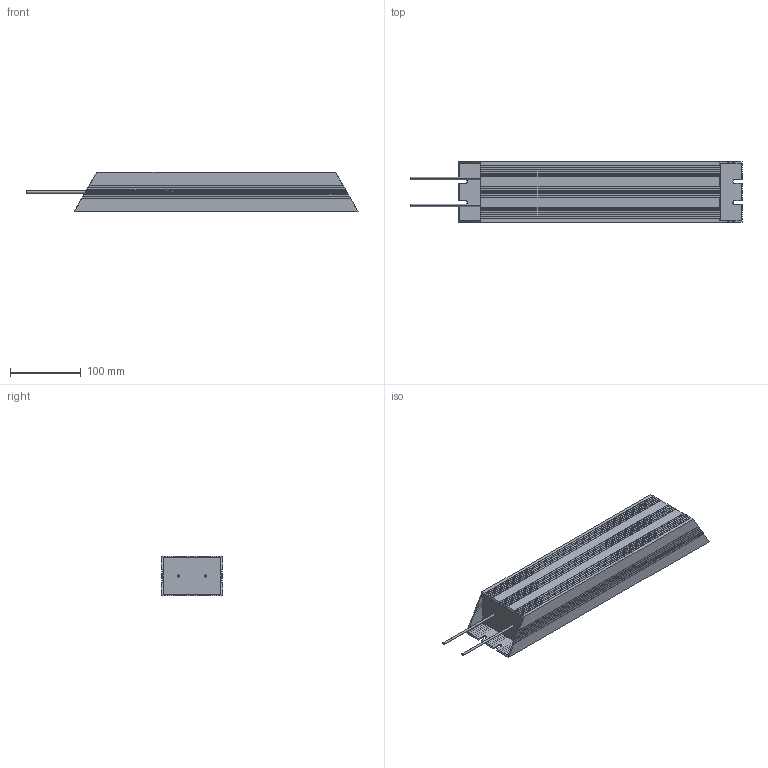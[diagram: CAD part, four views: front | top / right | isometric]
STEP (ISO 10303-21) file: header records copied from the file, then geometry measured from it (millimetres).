
FILE_DESCRIPTION (( 'STEP AP203' ), '1' );
FILE_NAME ('Ðåçèñòîð òîðìîçíîé _ IBRA-40-2500-IP54.STEP', '2025-07-04T13:01:59', ( '' ), ( '' ), 'SwSTEP 2.0', 'SolidWorks 2021', '' );
FILE_SCHEMA (( 'CONFIG_CONTROL_DESIGN' ));
Length unit declared in the file: millimetre
Products named in the file (1): Ðåçèñòîð òîðìîçíîé _ IBRA-40-2500-IP54
Bounding box: 468.15 x 85 x 55 mm (x, y, z)
Volume: 1581962.9 mm3; surface area: 163580.2 mm2
Topology: 1 solids, 1 shells, 254 faces, 750 edges, 500 vertices
Faces by surface type: plane 178, cylinder 76
Entity records: 8387 total; most frequent: CARTESIAN_POINT 1913, ORIENTED_EDGE 1500, DIRECTION 1140, EDGE_CURVE 750, LINE 598, VECTOR 598, VERTEX_POINT 500, AXIS2_PLACEMENT_3D 271
